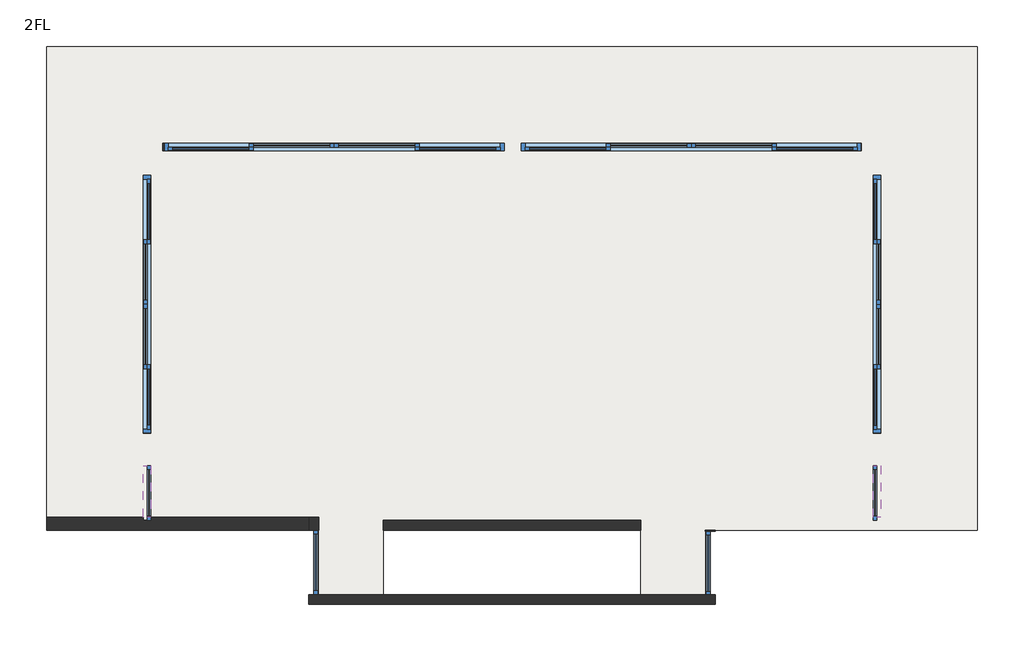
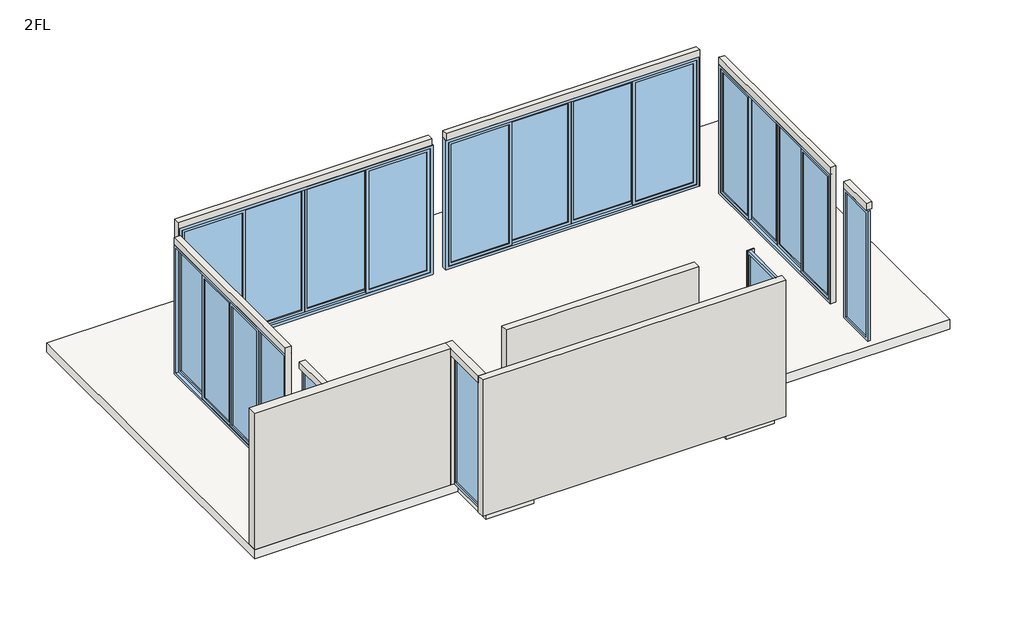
# One storey: 11 walls, 8 windows, 1 slab.
"""IFC4 building model written with IfcOpenShell, lengths in millimetres."""

from ifc_helpers import new_model, si_unit, frame, origin, place, context, project, spatial, polyline, outline, extrude, faceted_brep, transform, mapped, element, save
from components import window_85ef9ea3, window_a3bbb001, window_07f3a77e, window_18301d79, window_0d7f8c46, window_ba3099a8

model = new_model("IFC4")

# Units and contexts
model_context = context("Model", 3, world=origin())
ifc_project = project(units=[si_unit("LENGTHUNIT", "METRE", prefix="MILLI")], contexts=[model_context])

# Site, building, storey
site = spatial("IfcSite", under=ifc_project)
building = spatial("IfcBuilding", under=site)
storey = spatial("IfcBuildingStorey", under=building, Name="2FL", Elevation=3850.0)

# Slab
placement = place(None, origin())
element("IfcSlab", 1, ObjectType="2FL_一般_20cm", at=placement, inside=storey, context=model_context, shape_type="SweptSolid", body=[
    extrude(outline(polyline([(4582.3317681, 437.1374002), (4582.3317681, -7062.8625998), (362.3317681, -7062.8625998), (362.3317681, -8062.8625998), (-637.6682319, -8062.8625998), (-637.6682319, -7062.8625998), (-4637.6682319, -7062.8625998), (-4637.6682319, -8062.8625998), (-5637.6682319, -8062.8625998), (-5637.6682319, -7062.8625998), (-9857.6682319, -7062.8625998), (-9857.6682319, 437.1374002), (4582.3317681, 437.1374002)])), frame((0.0, 0.0, 3650.0), z_axis=(0.0, 0.0, 1.0), x_axis=(1.0, 0.0, 0.0)), (0.0, 0.0, 1.0), 200.0),
])

# Walls
element("IfcWall", 2, ObjectType="2FL_樓梯_北面_RC 牆_15cm", at=placement, inside=storey, context=model_context, shape_type="Brep", body=[
    faceted_brep([(512.3317681, -8062.8625998, 3850.0), (-5787.6682319, -8062.8625998, 3850.0), (-5787.6682319, -8062.8625998, 6700.0), (-5787.6682319, -8062.8625998, 6850.0), (-5637.6682319, -8062.8625998, 6850.0), (512.3317681, -8062.8625998, 6850.0), (512.3317681, -8212.8625998, 3850.0), (512.3317681, -8212.8625998, 6850.0), (-5787.6682319, -8212.8625998, 6850.0), (-5787.6682319, -8212.8625998, 3850.0)], [[[0, 1, 2, 3, 4, 5]], [[6, 7, 8, 9]], [[1, 0, 6, 9]], [[5, 4, 3, 8, 7]], [[3, 2, 1, 9, 8]], [[0, 5, 7, 6]]]),
])
element("IfcWall", 3, ObjectType="2FL_樓梯_東面_RC 牆_15cm", at=placement, inside=storey, context=model_context, shape_type="Brep", body=[
    faceted_brep([(-5637.6682319, -6862.8625998, 6850.0), (-5637.6682319, -8062.8625998, 6850.0), (-5637.6682319, -8062.8625998, 6700.0), (-5637.6682319, -7062.8625998, 6700.0), (-5637.6682319, -7062.8625998, 3850.0), (-5637.6682319, -6862.8625998, 3850.0), (-5787.6682319, -8062.8625998, 6850.0), (-5787.6682319, -7062.8625998, 6850.0), (-5787.6682319, -6862.8625998, 6850.0), (-5787.6682319, -6862.8625998, 3850.0), (-5787.6682319, -7062.8625998, 3850.0), (-5787.6682319, -7062.8625998, 6700.0), (-5787.6682319, -8062.8625998, 6700.0)], [[[0, 1, 2, 3, 4, 5]], [[6, 7, 8, 9, 10, 11, 12]], [[9, 5, 4, 10]], [[1, 0, 8, 7, 6]], [[0, 5, 9, 8]], [[1, 6, 12, 2]], [[11, 3, 2, 12]], [[3, 11, 10, 4]]]),
])
element("IfcWall", 4, ObjectType="2FL_樓梯_西面_RC 牆_15cm", at=placement, inside=storey, context=model_context, shape_type="Brep", body=[
    faceted_brep([(362.3317681, -7062.8625998, 6850.0), (362.3317681, -7062.8625998, 3850.0), (362.3317681, -7077.8625998, 3850.0), (362.3317681, -7077.8625998, 6850.0), (512.3317681, -7062.8625998, 3850.0), (512.3317681, -7062.8625998, 6850.0), (512.3317681, -7077.8625998, 6850.0), (512.3317681, -7077.8625998, 3850.0), (437.3317681, -7062.8625998, 3850.0)], [[[0, 1, 2, 3]], [[4, 5, 6, 7]], [[1, 8, 4, 7, 2]], [[5, 0, 3, 6]], [[1, 0, 5, 4, 8]], [[3, 2, 7, 6]]]),
])
element("IfcWall", 5, ObjectType="2FL_樓梯_南面_RC 牆_15cm", at=placement, inside=storey, context=model_context, shape_type="SweptSolid", body=[
    extrude(outline(polyline([(-637.6682319, -7062.8625998), (-4637.6682319, -7062.8625998), (-4637.6682319, -6912.8625998), (-637.6682319, -6912.8625998), (-637.6682319, -7062.8625998)])), frame((0.0, 0.0, 3850.0), z_axis=(0.0, 0.0, 1.0), x_axis=(1.0, 0.0, 0.0)), (0.0, 0.0, 1.0), 3000.0),
])
element("IfcWall", 6, ObjectType="2FL_牆面_北面_龍邊_RC 牆_20cm", at=placement, inside=storey, context=model_context, shape_type="Brep", body=[
    faceted_brep([(-9857.6682319, -7062.8625998, 3850.0), (-5787.6682319, -7062.8625998, 3850.0), (-5787.6682319, -7062.8625998, 6700.0), (-5787.6682319, -7062.8625998, 6850.0), (-9857.6682319, -7062.8625998, 6850.0), (-9857.6682319, -6862.8625998, 6850.0), (-8357.6682319, -6862.8625998, 6850.0), (-8237.6682319, -6862.8625998, 6850.0), (-5787.6682319, -6862.8625998, 6850.0), (-5787.6682319, -6862.8625998, 3850.0), (-8237.6682319, -6862.8625998, 3850.0), (-8237.6682319, -6862.8625998, 6700.0), (-8357.6682319, -6862.8625998, 6700.0), (-8357.6682319, -6862.8625998, 3850.0), (-9857.6682319, -6862.8625998, 3850.0), (-8357.6682319, -6912.8625998, 3850.0), (-8237.6682319, -6912.8625998, 3850.0), (-8357.6682319, -6912.8625998, 6700.0), (-8237.6682319, -6912.8625998, 6700.0)], [[[0, 1, 2, 3, 4]], [[5, 6, 7, 8, 9, 10, 11, 12, 13, 14]], [[1, 0, 14, 13, 15, 16, 10, 9]], [[4, 3, 8, 7, 6, 5]], [[0, 4, 5, 14]], [[3, 2, 1, 9, 8]], [[17, 15, 13, 12]], [[16, 18, 11, 10]], [[15, 17, 18, 16]], [[18, 17, 12, 11]]]),
])
element("IfcWall", 7, ObjectType="落地窗輔助牆_12cm", at=placement, inside=storey, context=model_context, shape_type="SweptSolid", body=[
    extrude(outline(polyline([(-8237.6682319, -6062.8625998), (-8237.6682319, -6862.8625998), (-8357.6682319, -6862.8625998), (-8357.6682319, -6062.8625998), (-8237.6682319, -6062.8625998)])), frame((0.0, 0.0, 6700.0), z_axis=(0.0, 0.0, 1.0), x_axis=(1.0, 0.0, 0.0)), (0.0, 0.0, 1.0), 150.0),
])
element("IfcWall", 8, ObjectType="落地窗輔助牆_12cm", at=placement, inside=storey, context=model_context, shape_type="SweptSolid", body=[
    extrude(outline(polyline([(-5562.8625998, 6850.0), (-1562.8625998, 6850.0), (-1562.8625998, 6700.0), (-5560.0827304, 6700.0), (-5560.0827304, 3850.0), (-5562.8625998, 3850.0), (-5562.8625998, 6850.0)])), frame((-8357.6682319, 0.0, 0.0), z_axis=(1.0, 0.0, 0.0), x_axis=(0.0, 1.0, 0.0)), (0.0, 0.0, 1.0), 120.0),
])
element("IfcWall", 9, ObjectType="落地窗輔助牆_12cm", at=placement, inside=storey, context=model_context, shape_type="SweptSolid", body=[
    extrude(outline(polyline([(6850.0, -2787.6682319), (6850.0, -8057.6682319), (3850.0, -8057.6682319), (3850.0, -8030.7169688), (6700.0, -8030.7169688), (6700.0, -2787.6682319), (6850.0, -2787.6682319)])), frame((0.0, -1182.8625998, 0.0), z_axis=(0.0, 1.0, 0.0), x_axis=(0.0, 0.0, 1.0)), (0.0, 0.0, 1.0), 120.0),
])
element("IfcWall", 10, ObjectType="落地窗輔助牆_12cm", at=placement, inside=storey, context=model_context, shape_type="SweptSolid", body=[
    extrude(outline(polyline([(3850.0, 2782.3317681), (6850.0, 2782.3317681), (6850.0, -2487.6682319), (6700.0, -2487.6682319), (6700.0, 2776.9320894), (3850.0, 2776.9320894), (3850.0, 2782.3317681)])), frame((0.0, -1182.8625998, 0.0), z_axis=(0.0, 1.0, 0.0), x_axis=(0.0, 0.0, 1.0)), (0.0, 0.0, 1.0), 120.0),
])
element("IfcWall", 11, ObjectType="落地窗輔助牆_12cm", at=placement, inside=storey, context=model_context, shape_type="SweptSolid", body=[
    extrude(outline(polyline([(-5562.8625998, 3850.0), (-5562.8625998, 6850.0), (-1562.8625998, 6850.0), (-1562.8625998, 6700.0), (-5562.1287829, 6700.0), (-5562.1287829, 3850.0), (-5562.8625998, 3850.0)])), frame((2962.3317681, 0.0, 0.0), z_axis=(1.0, 0.0, 0.0), x_axis=(0.0, 1.0, 0.0)), (0.0, 0.0, 1.0), 120.0),
])
element("IfcWall", 12, ObjectType="落地窗輔助牆_12cm", at=placement, inside=storey, context=model_context, shape_type="SweptSolid", body=[
    extrude(outline(polyline([(2962.3317681, -6862.8625998), (2962.3317681, -6062.8625998), (3082.3317681, -6062.8625998), (3082.3317681, -6862.8625998), (2962.3317681, -6862.8625998)])), frame((0.0, 0.0, 6700.0), z_axis=(0.0, 0.0, 1.0), x_axis=(1.0, 0.0, 0.0)), (0.0, 0.0, 1.0), 150.0),
])

# Windows
window_shape = window_85ef9ea3(model_context)
element("IfcWindow", 13, ObjectType="固定窗-矩形- (1) : 樓梯_東面_固定窗_矩型_100 x 285cm", at=placement, inside=storey, context=model_context, shape_type="MappedRepresentation", body=[
    mapped(window_shape, transform((-5712.6682319, -7562.8625998, 3850.0), x_axis=(0.0, 1.0, 0.0), y_axis=(-1.0, 0.0, 0.0), z_axis=(0.0, 0.0, 1.0))),
])
window_2_shape = window_a3bbb001(model_context)
element("IfcWindow", 14, ObjectType="固定窗-矩形- (1) : 樓梯_西面_固定窗_矩型_100 x 300cm", at=placement, inside=storey, context=model_context, shape_type="MappedRepresentation", body=[
    mapped(window_2_shape, transform((437.3317681, -7577.8625998, 3850.0), x_axis=(0.0, -1.0, 0.0), y_axis=(1.0, 0.0, 0.0), z_axis=(0.0, 0.0, 1.0))),
])
window_3_shape = window_07f3a77e(model_context)
element("IfcWindow", 15, ObjectType="固定窗-矩形- (1) : 2FL_東面_固定窗_矩型_85 x 285cm", at=placement, inside=storey, context=model_context, shape_type="MappedRepresentation", body=[
    mapped(window_3_shape, transform((-8297.6682319, -6487.8625998, 3850.0), x_axis=(0.0, 1.0, 0.0), y_axis=(-1.0, 0.0, 0.0), z_axis=(0.0, 0.0, 1.0))),
])
element("IfcWindow", 16, ObjectType="固定窗-矩形- (1) : 2FL_西面_固定窗_矩型_85 x 285cm", at=placement, inside=storey, context=model_context, shape_type="MappedRepresentation", body=[
    mapped(window_3_shape, transform((3022.3317681, -6487.8625998, 3850.0), x_axis=(0.0, -1.0, 0.0), y_axis=(1.0, 0.0, 0.0), z_axis=(0.0, 0.0, 1.0))),
])
window_4_shape = window_18301d79(model_context)
element("IfcWindow", 17, ObjectType="四開落地窗- (1) : 2FL_東面_四開落地窗_400 x 285cm", at=placement, inside=storey, context=model_context, shape_type="MappedRepresentation", body=[
    mapped(window_4_shape, transform((-8477.6682319, -3560.0827304, 3850.0), x_axis=(0.0, 1.0, 0.0), y_axis=(-1.0, 0.0, 0.0), z_axis=(0.0, 0.0, 1.0))),
])
element("IfcWindow", 18, ObjectType="四開落地窗- (1) : 2FL_西面_四開落地窗_400 x 285cm", at=placement, inside=storey, context=model_context, shape_type="MappedRepresentation", body=[
    mapped(window_4_shape, transform((3202.3317681, -3562.1287829, 3850.0), x_axis=(0.0, -1.0, 0.0), y_axis=(1.0, 0.0, 0.0), z_axis=(0.0, 0.0, 1.0))),
])
window_5_shape = window_0d7f8c46(model_context)
element("IfcWindow", 19, ObjectType="四開落地窗- (1) : 2FL_南面_四開落地窗_527 x 285cm", at=placement, inside=storey, context=model_context, shape_type="MappedRepresentation", body=[
    mapped(window_5_shape, transform((-5395.7169688, -942.8625998, 3850.0), x_axis=(-1.0, 0.0, 0.0), y_axis=(0.0, -1.0, 0.0), z_axis=(0.0, 0.0, 1.0))),
])
window_6_shape = window_ba3099a8(model_context)
element("IfcWindow", 20, ObjectType="四開落地窗- (1) : 2FL_南面_四開落地窗_527 x 285cm", at=placement, inside=storey, context=model_context, shape_type="MappedRepresentation", body=[
    mapped(window_6_shape, transform((141.9320894, -942.8625998, 3850.0), x_axis=(1.0, 0.0, 0.0), y_axis=(0.0, 1.0, 0.0), z_axis=(0.0, 0.0, 1.0))),
])

save(model, "model.ifc")
